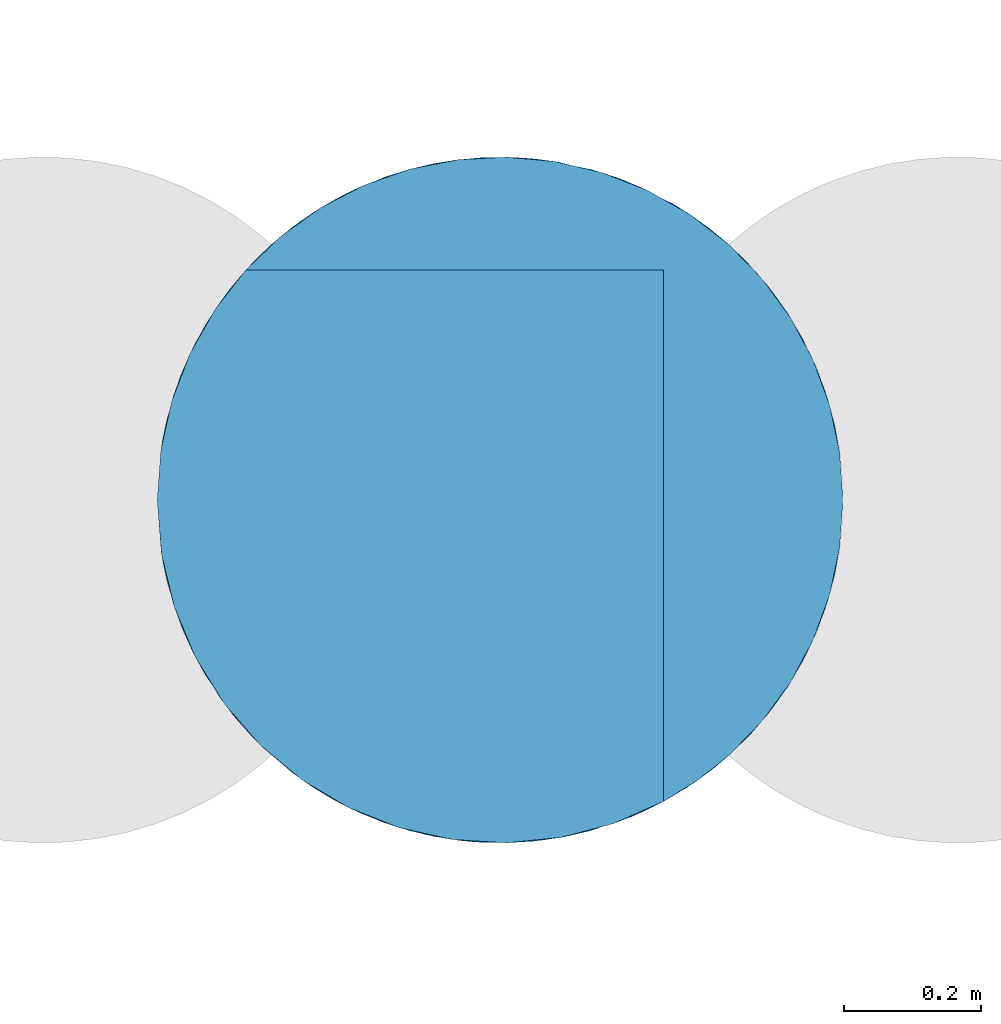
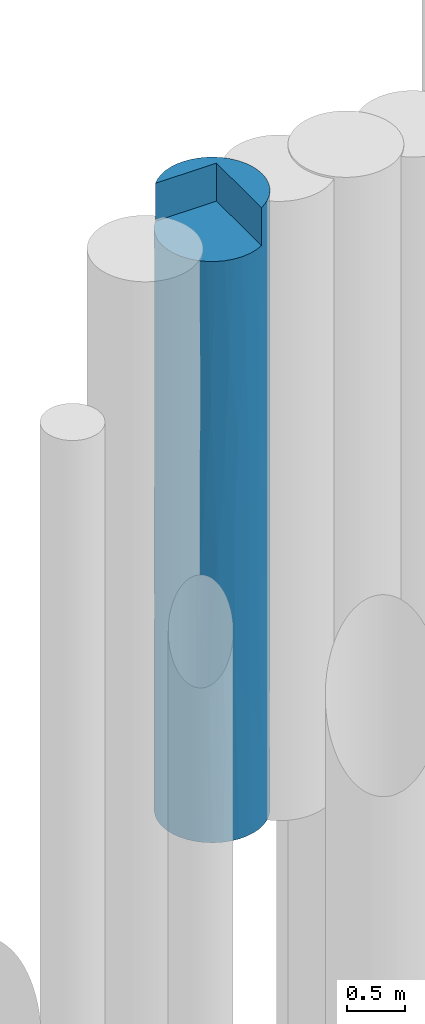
# One storey, part 72 of 104: 1 pile.
"""IFC2X3 building model written with IfcOpenShell, lengths in millimetres."""

from ifc_helpers import new_model, entity, si_unit, converted_unit, derived_unit, direction, frame, origin, place, context, subcontext, project, spatial, faceted_brep, source, transform, mapped, material, element, save


model = new_model("IFC2X3")

# Units and contexts
model_context = context("Model", 3, precision=0.01, world=origin(), true_north=direction((6.12303176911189e-17, 1.0)))
body_context = subcontext(model_context, "Body", "Model", "MODEL_VIEW")
ifc_project = project(units=[si_unit("LENGTHUNIT", "METRE", prefix="MILLI"), si_unit("AREAUNIT", "SQUARE_METRE", prefix="MILLI"), si_unit("VOLUMEUNIT", "CUBIC_METRE"), converted_unit("PLANEANGLEUNIT", "DEGREE", entity("IfcRatioMeasure", 0.0174532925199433), si_unit("PLANEANGLEUNIT", "RADIAN"), dimensions=[0, 0, 0, 0, 0, 0, 0]), si_unit("MASSUNIT", "GRAM", prefix="KILO"), derived_unit("MASSDENSITYUNIT", [(si_unit("MASSUNIT", "GRAM", prefix="KILO"), 1), (si_unit("LENGTHUNIT", "METRE"), -3)]), derived_unit("MOMENTOFINERTIAUNIT", [(si_unit("LENGTHUNIT", "METRE"), 4)]), si_unit("TIMEUNIT", "SECOND"), si_unit("FREQUENCYUNIT", "HERTZ"), si_unit("THERMODYNAMICTEMPERATUREUNIT", "DEGREE_CELSIUS"), derived_unit("THERMALTRANSMITTANCEUNIT", [(si_unit("MASSUNIT", "GRAM", prefix="KILO"), 1), (si_unit("THERMODYNAMICTEMPERATUREUNIT", "KELVIN"), -1), (si_unit("TIMEUNIT", "SECOND"), -3)]), derived_unit("VOLUMETRICFLOWRATEUNIT", [(si_unit("LENGTHUNIT", "METRE"), 3), (si_unit("TIMEUNIT", "SECOND"), -1)]), si_unit("ELECTRICCURRENTUNIT", "AMPERE"), si_unit("ELECTRICVOLTAGEUNIT", "VOLT"), si_unit("POWERUNIT", "WATT"), si_unit("FORCEUNIT", "NEWTON", prefix="KILO"), si_unit("ILLUMINANCEUNIT", "LUX"), si_unit("LUMINOUSFLUXUNIT", "LUMEN"), si_unit("LUMINOUSINTENSITYUNIT", "CANDELA"), derived_unit("USERDEFINED", [(si_unit("MASSUNIT", "GRAM", prefix="KILO"), -1), (si_unit("LENGTHUNIT", "METRE"), -2), (si_unit("TIMEUNIT", "SECOND"), 3), (si_unit("LUMINOUSFLUXUNIT", "LUMEN"), 1)]), derived_unit("LINEARVELOCITYUNIT", [(si_unit("LENGTHUNIT", "METRE"), 1), (si_unit("TIMEUNIT", "SECOND"), -1)]), si_unit("PRESSUREUNIT", "PASCAL"), derived_unit("USERDEFINED", [(si_unit("LENGTHUNIT", "METRE"), -2), (si_unit("MASSUNIT", "GRAM", prefix="KILO"), 1), (si_unit("TIMEUNIT", "SECOND"), -2)]), derived_unit("LINEARFORCEUNIT", [(si_unit("MASSUNIT", "GRAM", prefix="KILO"), 1), (si_unit("LENGTHUNIT", "METRE"), 1), (si_unit("TIMEUNIT", "SECOND"), -2), (si_unit("LENGTHUNIT", "METRE"), -1)]), derived_unit("PLANARFORCEUNIT", [(si_unit("MASSUNIT", "GRAM", prefix="KILO"), 1), (si_unit("LENGTHUNIT", "METRE"), 1), (si_unit("TIMEUNIT", "SECOND"), -2), (si_unit("LENGTHUNIT", "METRE"), -2)])], contexts=[model_context])

# Site, building, storey
site_placement = place(None, origin())
site = spatial("IfcSite", under=ifc_project, at=site_placement, Name="Theater aan de Parade", CompositionType="ELEMENT")
building_placement = place(site_placement, origin())
building = spatial("IfcBuilding", under=site, at=building_placement, Name="Theater aan de Parade", CompositionType="ELEMENT")
storey_placement = place(building_placement, frame((0.0, 0.0, -5520.0)))
storey = spatial("IfcBuildingStorey", under=building, at=storey_placement, Name="-2 kelder", CompositionType="ELEMENT", Elevation=-5520.0)

# Pile
ifc_material = material(Name="00_PBT_MAT_grout")
shared_shape = source(origin(), body_context, "Body", "Brep", [
    faceted_brep([(774.092975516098, 920.719711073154, 0.0), (834.94070325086, 874.159371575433, 0.0), (883.731329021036, 823.947143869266, 0.0), (925.030561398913, 767.39971830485, 0.0), (958.025618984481, 705.635784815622, 0.0), (982.069434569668, 639.864134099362, 0.0), (996.688438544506, 571.376920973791, 0.0), (1001.59527223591, 501.500196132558, 0.0), (996.688438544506, 431.623471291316, 0.0), (982.069434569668, 363.136258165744, 0.0), (958.025618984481, 297.364607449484, 0.0), (925.030561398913, 235.600673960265, 0.0), (883.731329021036, 179.053248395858, 0.0), (834.94070325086, 128.841020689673, 0.0), (774.092975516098, 82.2806811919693, 0.0), (706.852275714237, 45.5730500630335, 0.0), (634.792956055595, 19.5682745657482, 0.0), (559.606563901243, 4.87690827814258, 0.0), (483.058077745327, 1.84394187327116, 0.0), (406.944480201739, 10.5406992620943, 0.0), (333.052578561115, 30.7631565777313, 0.0), (263.117062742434, 62.0367237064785, 0.0), (198.779784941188, 103.62737643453, 0.0), (141.551216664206, 154.558878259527, 0.0), (92.7749878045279, 213.635688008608, 0.0), (53.5963401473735, 279.471015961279, 0.0), (24.9352359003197, 350.519370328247, 0.0), (7.4647927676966, 425.112571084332, 0.0), (1.5952722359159, 501.500196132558, 0.0), (7.4647927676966, 577.887821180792, 0.0), (24.9352359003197, 652.48102193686, 0.0), (53.5963401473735, 723.529376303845, 0.0), (92.7749878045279, 789.364704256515, 0.0), (141.551216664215, 848.441514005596, 0.0), (198.779784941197, 899.373015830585, 0.0), (263.117062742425, 940.963668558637, 0.0), (333.052578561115, 972.237235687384, 0.0), (406.944480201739, 992.459693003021, 0.0), (483.058077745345, 1001.15645039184, 0.0), (559.606563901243, 998.123483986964, 0.0), (634.792956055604, 983.432117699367, 0.0), (706.852275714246, 957.427342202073, 0.0), (905.37206786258, 796.397295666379, 1247.4486367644), (805.403335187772, 898.615621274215, 924.003198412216), (716.878492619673, 952.779638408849, 6520.0), (684.258028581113, 966.940114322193, 5743.308094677), (650.713574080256, 978.746183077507, 6520.0), (521.390493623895, 1001.10819167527, 924.003243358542), (369.610652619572, 983.765745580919, 1443.10425516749), (996.688486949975, 571.376578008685, 6520.0), (990.578646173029, 605.880558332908, 5474.69749159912), (982.067203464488, 639.871881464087, 6520.0), (671.321391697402, 971.811842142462, 1443.05055519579), (439.761898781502, 997.662099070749, 6520.0), (404.651221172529, 992.012021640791, 5414.67946418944), (370.030958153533, 983.880576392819, 6520.0), (805.403334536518, 898.615621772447, 1912.87449443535), (1001.59527223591, 501.500196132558, 4958.46227802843), (1001.59527223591, 501.500196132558, 6520.0), (1001.59527223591, 501.500196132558, 780.768860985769), (807.577647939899, 896.942715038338, 5332.37056113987), (778.693332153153, 917.693258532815, 6520.0), (834.913830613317, 874.191406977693, 6520.0), (883.710368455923, 823.971982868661, 6520.0), (905.355108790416, 796.420514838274, 5333.07061749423), (230.150688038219, 921.402372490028, 1053.26310002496), (169.188596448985, 875.004950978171, 1911.73915712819), (270.789082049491, 945.041065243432, 2126.38817832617), (762.39216404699, 928.097173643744, 3995.14982433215), (860.192295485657, 849.936954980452, 4285.31770955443), (831.574424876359, 877.151309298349, 3106.46884615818), (684.258028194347, 966.940114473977, 4900.65250257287), (147.936461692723, 854.948135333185, 972.896450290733), (994.744358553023, 583.986429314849, 1171.15327689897), (1001.59527223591, 501.500196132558, 1561.53772197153), (107.163764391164, 808.784731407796, 4998.73307231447), (85.6531403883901, 778.974776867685, 6120.0), (130.806433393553, 836.933702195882, 6120.0), (972.207348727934, 670.391502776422, 3406.77174775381), (915.978243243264, 781.297896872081, 3476.12220596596), (923.956407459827, 769.10264651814, 4424.60866166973), (8.87229625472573, 586.494719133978, 5145.8300589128), (1.5952722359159, 501.500196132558, 6120.0), (6.99332913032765, 574.773096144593, 6120.0), (546.251302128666, 999.502042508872, 5414.68075163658), (510.741373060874, 1001.41653797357, 6520.0), (581.535340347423, 995.068413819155, 6520.0), (971.196246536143, 673.182824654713, 4590.65483359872), (957.682614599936, 706.400991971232, 5507.42951538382), (15.9131907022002, 620.297989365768, 2885.54246291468), (10.2254249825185, 593.997078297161, 4168.07786476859), (57.6811791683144, 731.587740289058, 3054.14447651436), (942.610667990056, 737.096080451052, 2431.12505889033), (971.200417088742, 673.171416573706, 1279.52980966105), (1001.59527223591, 501.500196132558, 3396.9245560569), (990.37854368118, 606.813602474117, 2390.59207828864), (925.017263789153, 767.420893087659, 6520.0), (140.238498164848, 847.074040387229, 2890.4848850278), (93.1301764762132, 789.868477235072, 2096.67954048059), (475.184835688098, 1000.8021977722, 4465.32810463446), (71.9228794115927, 757.198523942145, 1091.06215673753), (434.083191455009, 996.921349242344, 3211.1927784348), (297.484975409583, 957.941853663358, 3250.7126434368), (338.62336046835, 974.19476556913, 4160.52061890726), (521.390493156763, 1001.10819169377, 1912.89368231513), (958.018994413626, 705.650596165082, 6520.0), (669.973797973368, 972.295982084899, 2348.29682421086), (752.067273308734, 934.240044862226, 2703.907757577), (880.203825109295, 828.081830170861, 2303.56718256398), (37.9030043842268, 688.554949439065, 1995.50789910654), (26.1382579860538, 656.227787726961, 1022.47264113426), (366.49152221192, 982.901252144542, 2440.85558995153), (994.264765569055, 586.804183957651, 4017.35399626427), (1.5952722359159, 501.500196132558, 1498.46642681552), (671.321390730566, 971.811842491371, 3253.54309423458), (49.4809645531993, 715.024557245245, 6120.0), (35.0149364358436, 681.229966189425, 4600.37151865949), (23.0709437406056, 646.463871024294, 6120.0), (182.12481041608, 886.12809946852, 6520.0), (239.896950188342, 927.544780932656, 6520.0), (210.273930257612, 907.86441171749, 5606.85578794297), (287.579980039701, 953.382320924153, 5703.53019176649), (302.957495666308, 960.349881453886, 6520.0), (107.163764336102, 808.784731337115, 3827.67095024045), (130.806433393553, 836.933702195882, 6520.0), (180.226140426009, 884.543119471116, 4631.42682471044), (212.088877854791, 909.159425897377, 3147.85840051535), (554.700371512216, 998.672046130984, 3001.23264596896), (1.5952722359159, 501.500196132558, 4558.45983052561), (10.7764903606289, 596.877988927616, 1743.50659353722), (1.5952722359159, 501.500196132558, 2996.93285363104), (241.963260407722, 928.807133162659, 3997.48885248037), (586.96487521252, 994.158323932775, 4455.1009034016), (270.843512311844, 945.069384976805, 4890.38730166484), (1001.59527223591, 501.500196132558, 2479.23113901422), (1.5952722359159, 501.500196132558, 3777.69634207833), (665.737654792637, 973.789597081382, 4086.19344067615), (1.5952722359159, 501.500196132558, 3123.07672165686), (1.5952722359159, 501.500196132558, 1561.53836082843), (37.9030045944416, 314.445442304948, 1331.75480904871), (116.029959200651, 183.16171372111, 1331.75422920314), (463.469660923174, 2.95587737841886, 864.72315373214), (812.665939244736, 110.047721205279, 5616.16688581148), (739.81086196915, 61.8943126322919, 6120.0), (704.139789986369, 44.3615756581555, 5256.46222541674), (789.349409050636, 92.6022177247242, 6520.0), (230.15068844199, 81.5980195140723, 1587.11611108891), (154.905649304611, 141.213774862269, 2446.34262621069), (369.610653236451, 19.2346465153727, 973.116406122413), (392.947477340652, 13.4472720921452, 5089.03699418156), (354.533892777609, 23.6163706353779, 4026.2977565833), (471.606682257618, 2.40032188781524, 4275.08732355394), (199.557004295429, 103.037042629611, 3564.38813484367), (245.770913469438, 71.9028294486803, 4648.1581971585), (124.2565956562, 173.452146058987, 4242.61531645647), (597.481544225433, 10.7804972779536, 1376.0493002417), (17.2679062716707, 377.294710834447, 2495.4395463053), (71.9228796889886, 245.801867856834, 2515.46838972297), (14.9467763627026, 386.725453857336, 3704.97959440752), (212.455819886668, 93.5806242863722, 6120.0), (124.256595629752, 173.452146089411, 5216.85095567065), (10.9306444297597, 405.332514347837, 5094.11285125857), (26.6732653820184, 345.138156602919, 6120.0), (7.90457785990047, 422.320032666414, 6120.0), (9.56860230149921, 412.563386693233, 992.523367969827), (444.834471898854, 4.73243193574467, 1731.13015159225), (942.610669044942, 265.904313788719, 1847.27351403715), (916.130991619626, 221.928850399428, 3443.63986971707), (881.318216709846, 176.214959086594, 1947.7824157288), (40.5938648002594, 307.908609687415, 4648.15819653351), (905.372068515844, 206.603097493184, 1007.81716465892), (151.506081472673, 144.516220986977, 6120.0), (99.3916218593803, 204.461101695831, 6120.0), (942.607943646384, 265.899212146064, 5460.62922269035), (958.024006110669, 297.36100123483, 6520.0), (925.026510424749, 235.594223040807, 6520.0), (57.4276652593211, 271.902424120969, 6120.0), (783.283266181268, 88.3998765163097, 4743.19741404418), (783.815241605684, 88.7631262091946, 3701.11576875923), (876.290675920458, 170.436222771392, 4045.40627187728), (551.022715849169, 3.94926625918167, 5089.03699433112), (56.4217915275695, 273.858872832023, 3589.38946158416), (280.702634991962, 52.9397845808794, 6120.0), (704.139790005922, 44.3615756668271, 4318.8299028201), (590.976742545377, 9.55410887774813, 4021.27531204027), (878.459201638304, 172.906862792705, 5683.32784126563), (883.724621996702, 179.045299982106, 6520.0), (805.403335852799, 104.384771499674, 1656.53511755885), (741.176683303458, 62.6371793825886, 940.637368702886), (816.903943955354, 113.453238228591, 819.432599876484), (996.688820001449, 431.626174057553, 6520.0), (994.660861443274, 418.516313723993, 1171.1532792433), (440.065643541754, 5.30053390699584, 3019.37996508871), (432.057364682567, 6.35932788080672, 6120.0), (354.524166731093, 23.6193637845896, 6120.0), (332.603938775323, 30.9240288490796, 2011.18953747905), (971.200417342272, 329.82897638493, 1007.82161925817), (597.481544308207, 10.7804972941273, 2796.48343746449), (983.506037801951, 368.225989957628, 5505.54513817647), (982.069244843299, 363.135599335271, 6520.0), (590.387579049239, 9.44742838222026, 6120.0), (511.345506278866, 1.5952722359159, 6120.0), (987.863356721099, 385.124296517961, 2081.87471888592), (958.865170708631, 299.25222963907, 3199.1116466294), (993.777696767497, 413.429423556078, 4793.11696565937), (990.962367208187, 398.933893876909, 3778.96845694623), (739.81086196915, 61.8943126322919, 6520.0), (860.206298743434, 153.077849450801, 4880.70690048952), (834.927310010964, 128.821041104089, 6520.0), (667.188780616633, 29.7176297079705, 6120.0), (111.736371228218, 188.434648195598, 3268.98294288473), (971.199621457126, 329.826799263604, 4559.96306425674), (787.335653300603, 91.1924645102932, 2668.86779425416), (692.817224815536, 39.5108403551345, 3286.02014009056), (699.618460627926, 42.3849416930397, 2063.50764465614), (860.210528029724, 153.082202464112, 3210.09112622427), (923.158589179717, 232.642669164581, 4526.86124872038), (297.48497654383, 45.0585380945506, 3052.23057316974), (272.051165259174, 57.3048528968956, 3849.67747733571), (987.355674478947, 383.02306073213, 2936.92681171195), (739.810861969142, 836.933702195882, 6520.0), (739.810861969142, 836.933702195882, 6120.0)], [[[0, 1, 2, 3, 4, 5, 6, 7, 8, 9, 10, 11, 12, 13, 14, 15, 16, 17, 18, 19, 20, 21, 22, 23, 24, 25, 26, 27, 28, 29, 30, 31, 32, 33, 34, 35, 36, 37, 38, 39, 40, 41]], [[42, 2, 43]], [[44, 45, 46]], [[47, 37, 48]], [[49, 50, 51]], [[52, 40, 47]], [[3, 42, 4]], [[2, 42, 3]], [[53, 54, 55]], [[43, 52, 56]], [[57, 50, 58]], [[7, 6, 59]], [[60, 61, 62]], [[41, 40, 52]], [[63, 64, 62]], [[65, 66, 67]], [[52, 43, 41]], [[1, 0, 43]], [[68, 69, 70]], [[60, 71, 45]], [[38, 47, 39]], [[34, 33, 72]], [[6, 5, 73]], [[59, 73, 74]], [[75, 76, 77]], [[78, 79, 80]], [[60, 64, 69]], [[81, 82, 83]], [[84, 85, 86]], [[87, 80, 88]], [[89, 90, 91]], [[51, 50, 88]], [[87, 88, 50]], [[42, 92, 93]], [[94, 95, 78]], [[64, 63, 96]], [[60, 62, 64]], [[61, 60, 45]], [[97, 66, 98]], [[99, 54, 84]], [[32, 100, 72]], [[84, 86, 45]], [[79, 70, 69]], [[48, 37, 36]], [[101, 102, 103]], [[34, 65, 35]], [[43, 2, 1]], [[104, 47, 48]], [[69, 80, 79]], [[88, 96, 105]], [[56, 106, 107]], [[34, 72, 65]], [[108, 42, 56]], [[109, 100, 110]], [[48, 67, 111]], [[78, 112, 94]], [[113, 110, 29]], [[29, 28, 113]], [[47, 40, 39]], [[73, 5, 93]], [[31, 100, 32]], [[100, 31, 110]], [[95, 93, 92]], [[107, 106, 114]], [[115, 116, 117]], [[84, 54, 53]], [[118, 119, 120]], [[85, 84, 53]], [[55, 54, 121]], [[119, 121, 120]], [[122, 121, 119]], [[97, 91, 123]], [[76, 75, 115]], [[77, 124, 118]], [[123, 125, 126]], [[110, 31, 30]], [[75, 120, 125]], [[108, 79, 92]], [[101, 127, 104]], [[4, 93, 5]], [[72, 98, 66]], [[115, 75, 116]], [[36, 35, 65]], [[81, 117, 116]], [[82, 81, 128]], [[42, 93, 4]], [[90, 128, 81]], [[129, 130, 89]], [[102, 131, 103]], [[68, 60, 69]], [[84, 132, 99]], [[103, 54, 99]], [[121, 133, 120]], [[45, 86, 46]], [[132, 84, 71]], [[75, 77, 120]], [[116, 75, 123]], [[58, 50, 49]], [[112, 50, 57]], [[98, 100, 109]], [[72, 66, 65]], [[97, 126, 66]], [[36, 65, 48]], [[120, 133, 125]], [[77, 118, 120]], [[47, 38, 37]], [[52, 47, 104]], [[43, 0, 41]], [[42, 43, 56]], [[45, 44, 61]], [[84, 45, 71]], [[131, 125, 133]], [[123, 75, 125]], [[111, 102, 101]], [[48, 65, 67]], [[78, 95, 92]], [[95, 94, 134, 74]], [[91, 98, 109]], [[98, 91, 97]], [[89, 91, 109]], [[116, 123, 91]], [[126, 125, 131]], [[126, 67, 66]], [[89, 109, 129]], [[135, 128, 90]], [[79, 78, 92]], [[78, 87, 112]], [[70, 108, 56]], [[69, 64, 80]], [[56, 107, 70]], [[70, 107, 68]], [[136, 68, 114]], [[60, 68, 71]], [[103, 131, 133]], [[126, 131, 102]], [[54, 103, 133]], [[101, 103, 99]], [[99, 132, 127]], [[111, 104, 48]], [[67, 126, 102]], [[123, 126, 97]], [[89, 130, 137, 135]], [[91, 90, 116]], [[89, 135, 90]], [[117, 81, 83]], [[116, 90, 81]], [[71, 136, 132]], [[136, 127, 132]], [[96, 88, 64]], [[51, 88, 105]], [[29, 110, 30]], [[129, 109, 110]], [[110, 113, 129]], [[129, 113, 138, 130]], [[32, 72, 33]], [[98, 72, 100]], [[55, 121, 122]], [[54, 133, 121]], [[50, 112, 87]], [[57, 94, 112]], [[88, 80, 64]], [[78, 80, 87]], [[102, 111, 67]], [[104, 111, 101]], [[79, 108, 70]], [[42, 108, 92]], [[68, 136, 71]], [[127, 136, 114]], [[106, 56, 52]], [[68, 107, 114]], [[52, 104, 106]], [[127, 106, 104]], [[73, 95, 74]], [[6, 73, 59]], [[95, 73, 93]], [[127, 101, 99]], [[106, 127, 114]], [[139, 25, 140]], [[22, 140, 23]], [[141, 19, 18]], [[142, 143, 144]], [[145, 143, 142]], [[24, 140, 25]], [[140, 22, 146]], [[147, 140, 146]], [[19, 148, 20]], [[149, 150, 151]], [[152, 153, 154]], [[155, 141, 17]], [[21, 20, 148]], [[156, 139, 157]], [[158, 128, 135, 137]], [[153, 159, 160]], [[22, 21, 146]], [[161, 162, 163]], [[26, 164, 27]], [[165, 141, 155]], [[166, 167, 168]], [[26, 139, 164]], [[154, 160, 169]], [[158, 137, 156]], [[10, 170, 11]], [[160, 171, 172]], [[82, 128, 161]], [[173, 174, 175]], [[82, 161, 163]], [[162, 169, 176]], [[177, 178, 179]], [[148, 141, 165]], [[176, 169, 160]], [[151, 180, 149]], [[164, 28, 27]], [[181, 169, 158]], [[182, 153, 149]], [[171, 160, 159]], [[183, 180, 184]], [[8, 7, 59]], [[17, 16, 155]], [[185, 175, 186]], [[187, 188, 189]], [[157, 140, 147]], [[15, 14, 188]], [[58, 190, 57]], [[16, 15, 188]], [[14, 13, 189]], [[11, 170, 12]], [[157, 139, 140]], [[8, 191, 9]], [[151, 150, 192]], [[149, 193, 194]], [[168, 187, 189]], [[140, 24, 23]], [[26, 25, 139]], [[148, 165, 195]], [[170, 196, 166]], [[196, 170, 10]], [[197, 184, 192]], [[156, 138, 164]], [[198, 199, 174]], [[200, 201, 180]], [[149, 180, 201, 193]], [[202, 203, 166]], [[57, 204, 205]], [[143, 145, 206]], [[142, 207, 185]], [[208, 145, 142]], [[166, 196, 202]], [[180, 144, 200]], [[185, 208, 142]], [[189, 12, 170]], [[144, 143, 209]], [[153, 182, 159]], [[154, 181, 210]], [[198, 190, 199]], [[211, 198, 173]], [[212, 213, 214]], [[155, 188, 214]], [[185, 186, 208]], [[178, 215, 179]], [[173, 198, 174]], [[216, 179, 167]], [[142, 177, 207]], [[165, 155, 197]], [[196, 10, 9]], [[173, 185, 216]], [[168, 170, 166]], [[168, 189, 170]], [[191, 8, 59]], [[191, 202, 196]], [[184, 180, 151]], [[180, 183, 144]], [[182, 149, 194]], [[152, 217, 218]], [[165, 192, 195]], [[21, 148, 146]], [[214, 188, 187]], [[16, 188, 155]], [[160, 172, 176]], [[153, 160, 154]], [[144, 209, 200]], [[144, 183, 177]], [[212, 215, 178]], [[197, 155, 214]], [[219, 94, 205]], [[57, 205, 94]], [[219, 134, 94]], [[211, 173, 216]], [[217, 146, 195]], [[146, 148, 195]], [[192, 184, 151]], [[213, 184, 197]], [[153, 150, 149]], [[217, 195, 192]], [[217, 192, 150]], [[197, 192, 165]], [[144, 177, 142]], [[177, 183, 178]], [[213, 178, 183]], [[212, 187, 168]], [[184, 213, 183]], [[214, 213, 197]], [[213, 212, 178]], [[214, 187, 212]], [[181, 158, 156]], [[156, 137, 130, 138]], [[167, 166, 203]], [[212, 168, 215]], [[181, 156, 157]], [[158, 169, 161]], [[211, 204, 198]], [[190, 198, 57]], [[210, 181, 157]], [[154, 169, 181]], [[146, 217, 147]], [[210, 152, 154]], [[179, 216, 207]], [[203, 211, 216]], [[216, 185, 207]], [[175, 185, 173]], [[157, 147, 210]], [[152, 147, 217]], [[147, 152, 210]], [[217, 150, 218]], [[179, 207, 177]], [[167, 179, 215]], [[168, 167, 215]], [[216, 167, 203]], [[19, 141, 148]], [[141, 18, 17]], [[14, 189, 188]], [[189, 13, 12]], [[204, 211, 205]], [[57, 198, 204]], [[211, 203, 205]], [[202, 74, 134]], [[219, 205, 203]], [[158, 161, 128]], [[162, 161, 169]], [[156, 164, 139]], [[164, 138, 113, 28]], [[191, 59, 74]], [[202, 191, 74]], [[191, 196, 9]], [[150, 153, 218]], [[153, 152, 218]], [[203, 202, 219]], [[134, 219, 202]], [[46, 86, 85, 53, 55, 122, 119, 118, 124, 220, 206, 145, 208, 186, 175, 174, 199, 190, 58, 49, 51, 105, 96, 63, 62, 61, 44]], [[201, 200, 209, 143, 221, 77, 76, 115, 117, 83, 82, 163, 162, 176, 172, 171, 159, 182, 194, 193]], [[124, 77, 221, 220]], [[220, 221, 143, 206]]]),
])
pile_placement = place(storey_placement, frame((60225.0713944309, 48675.0642886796, -840.0)))
element("IfcPile", 1, at=pile_placement, inside=storey, material=ifc_material, Name="17_PBT_SFO_grondkering_rond:Ø1000 (grondkering)", ObjectType="17_PBT_SFO_grondkering_rond:Ø1000 (grondkering)", PredefinedType="NOTDEFINED", context=body_context, shape_type="MappedRepresentation", body=[
    mapped(shared_shape, transform((0.0, 0.0, 0.0), scale=1.0)),
])

save(model, "model.ifc")
